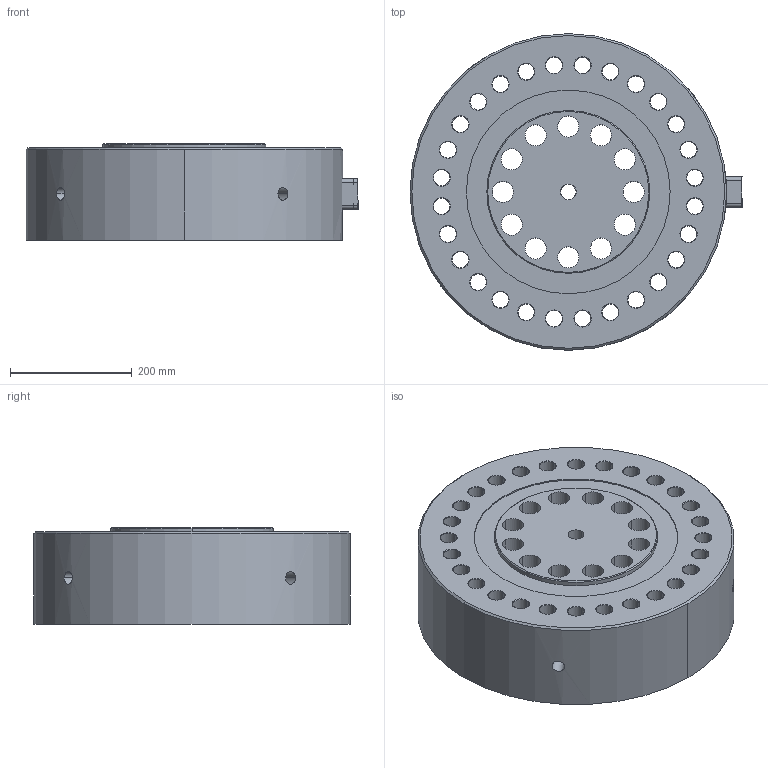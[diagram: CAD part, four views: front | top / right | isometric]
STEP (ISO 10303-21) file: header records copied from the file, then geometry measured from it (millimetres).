
FILE_DESCRIPTION (( 'STEP AP203' ), '1' );
FILE_NAME ('Interface 1288-2400KN.STEP', '2012-02-02T21:31:52', ( 'Ricky Parrish' ), ( '' ), 'SwSTEP 2.0', 'SolidWorks 2002349', '' );
FILE_SCHEMA (( 'CONFIG_CONTROL_DESIGN' ));
Length unit declared in the file: inch
Products named in the file (1): Interface 1288-2400KN
Bounding box: 546.1 x 520.7 x 158.75 mm (x, y, z)
Volume: 28257292.3 mm3; surface area: 1225888 mm2
Topology: 1 solids, 1 shells, 443 faces, 1058 edges, 658 vertices
Faces by surface type: cylinder 188, plane 120, cone 99, bspline 36
Entity records: 14336 total; most frequent: CARTESIAN_POINT 3953, DIRECTION 2188, ORIENTED_EDGE 2100, EDGE_CURVE 1050, AXIS2_PLACEMENT_3D 865, VERTEX_POINT 658, EDGE_LOOP 574, LINE 458
